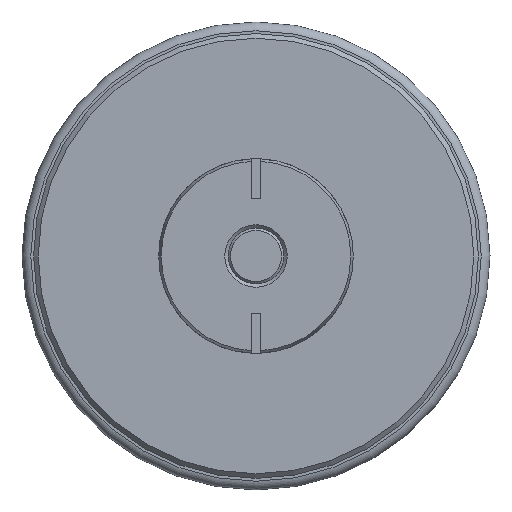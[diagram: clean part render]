
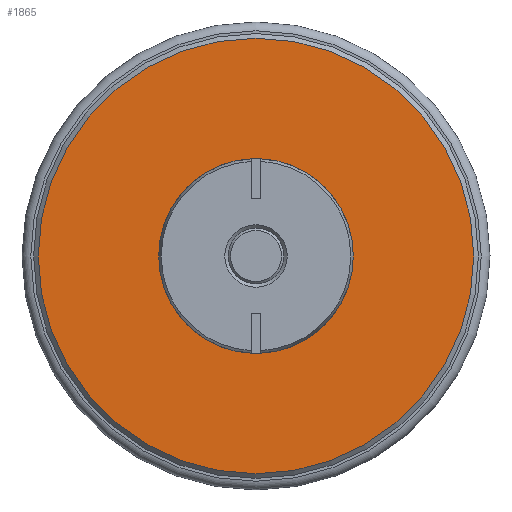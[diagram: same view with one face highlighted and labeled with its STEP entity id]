
A CAD part, left-side view. The second image highlights one B-rep face of the part: STEP entity #1865.
In plain terms, the highlighted planar face has unit normal (-1, 0, 0).
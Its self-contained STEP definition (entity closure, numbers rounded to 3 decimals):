
#135=PLANE('',#2122);
#781=ORIENTED_EDGE('',*,*,#1016,.T.);
#782=ORIENTED_EDGE('',*,*,#1017,.T.);
#1016=EDGE_CURVE('',#1185,#1185,#1302,.T.);
#1017=EDGE_CURVE('',#1186,#1186,#1303,.T.);
#1185=VERTEX_POINT('',#3366);
#1186=VERTEX_POINT('',#3369);
#1302=CIRCLE('',#2121,21.);
#1303=CIRCLE('',#2123,47.);
#1501=EDGE_LOOP('',(#781));
#1502=EDGE_LOOP('',(#782));
#1707=FACE_BOUND('',#1501,.T.);
#1708=FACE_BOUND('',#1502,.T.);
#1865=ADVANCED_FACE('',(#1707,#1708),#135,.T.);
#2121=AXIS2_PLACEMENT_3D('',#3365,#2709,#2710);
#2122=AXIS2_PLACEMENT_3D('',#3367,#2711,#2712);
#2123=AXIS2_PLACEMENT_3D('',#3368,#2713,#2714);
#2709=DIRECTION('',(1.,0.,0.));
#2710=DIRECTION('',(0.,0.,1.));
#2711=DIRECTION('',(-1.,0.,0.));
#2712=DIRECTION('',(0.,0.,-1.));
#2713=DIRECTION('',(-1.,0.,0.));
#2714=DIRECTION('',(0.,0.,-1.));
#3365=CARTESIAN_POINT('',(-30.001,0.,0.));
#3366=CARTESIAN_POINT('',(-30.001,0.,21.));
#3367=CARTESIAN_POINT('',(-30.001,0.,48.));
#3368=CARTESIAN_POINT('',(-30.001,0.,0.));
#3369=CARTESIAN_POINT('',(-30.001,0.,-47.));
